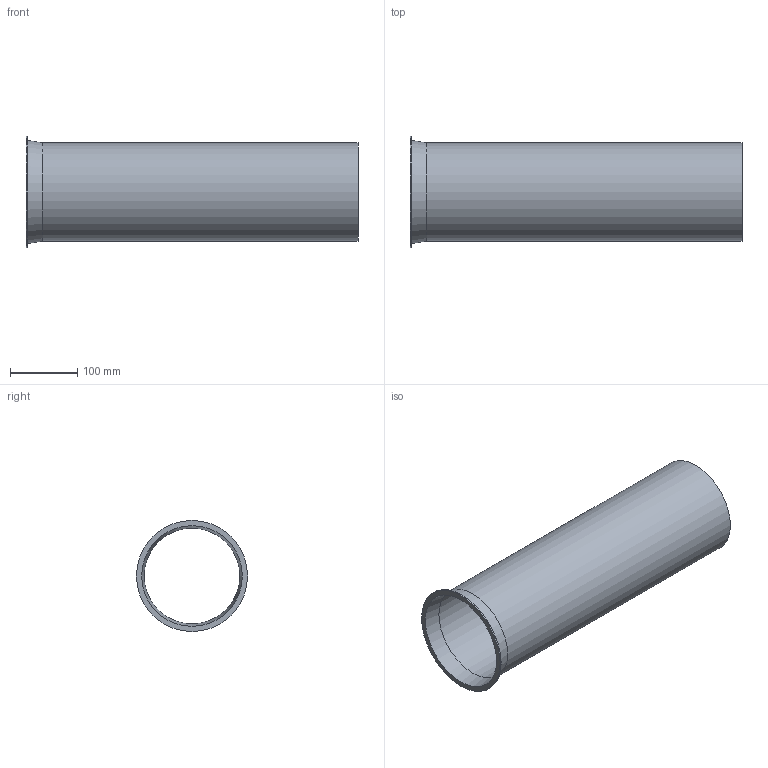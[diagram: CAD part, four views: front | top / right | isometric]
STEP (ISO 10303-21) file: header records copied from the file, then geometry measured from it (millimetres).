
FILE_DESCRIPTION((''),'2;1');
FILE_NAME('U:\Wolfgang\Marcel-3D\fertig\Kapitel 1\1511007.stp','2010-05-31T11:08:52',('TK2'),(''),'Autodesk Inventor 2010','Autodesk Inventor 2010','');
FILE_SCHEMA(('AUTOMOTIVE_DESIGN { 1 0 10303 214 1 1 1 1 }'));
Length unit declared in the file: millimetre
Products named in the file (1): 1511007
Bounding box: 493 x 165 x 165 mm (x, y, z)
Volume: 452764 mm3; surface area: 454694.5 mm2
Topology: 1 solids, 1 shells, 8 faces, 14 edges, 9 vertices
Faces by surface type: cylinder 3, plane 3, cone 2
Full cylindrical faces by diameter (mm): 142 x1, 146 x1, 165 x1
Entity records: 194 total; most frequent: DIRECTION 34, CARTESIAN_POINT 25, AXIS2_PLACEMENT_3D 17, ORIENTED_EDGE 16, EDGE_LOOP 16, VERTEX_POINT 8, CIRCLE 8, EDGE_CURVE 8
